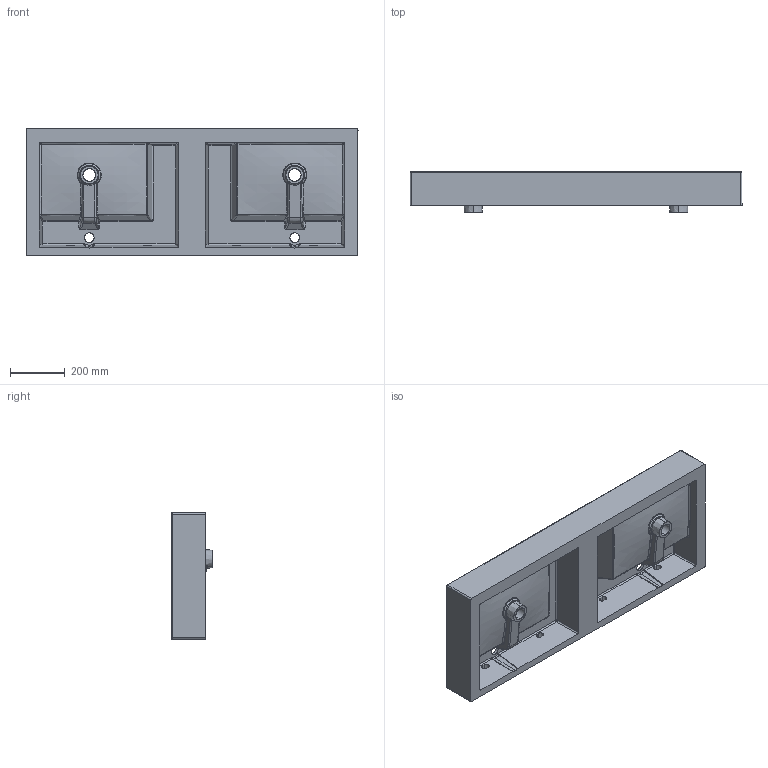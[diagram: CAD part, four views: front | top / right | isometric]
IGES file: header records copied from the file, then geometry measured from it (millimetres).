
Start section: SolidWorks IGES file using analytic representation for surfaces
Global section: file name: \\vmware-host\Shared Folders\Documenti\Lavoro\modifiche Tecla\3D-modifiche\TWENTY 121\PROJECT2017 120 2V B.IGS; native system: SolidWorks 2017; preprocessor: SolidWorks 2017; author: silvia; date: 171109.162555; units: millimetre
Bounding box: 1210 x 150 x 460 mm (x, y, z)
Surface area: 2057800.4 mm2 (no closed solid volume)
Topology: 0 solids, 0 shells, 322 faces, 4083 edges, 4069 vertices
Faces by surface type: bspline 167, revolution 155
